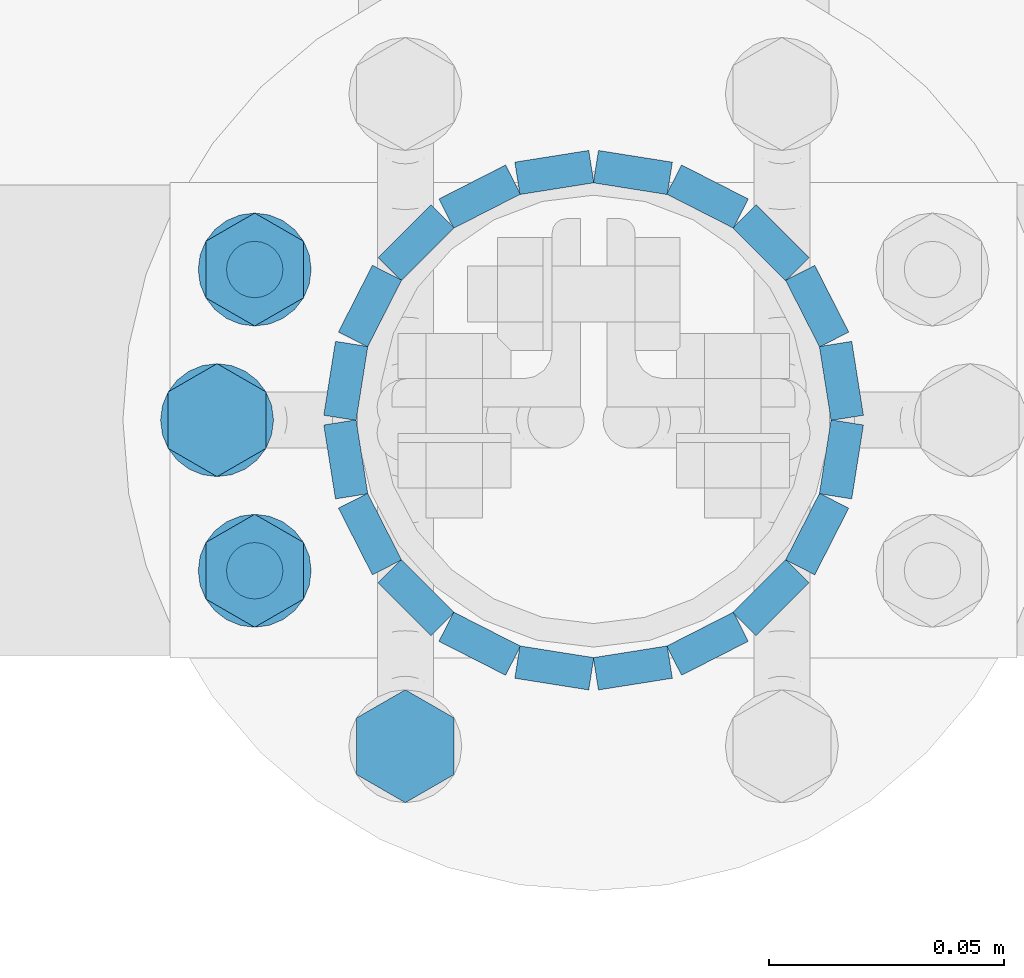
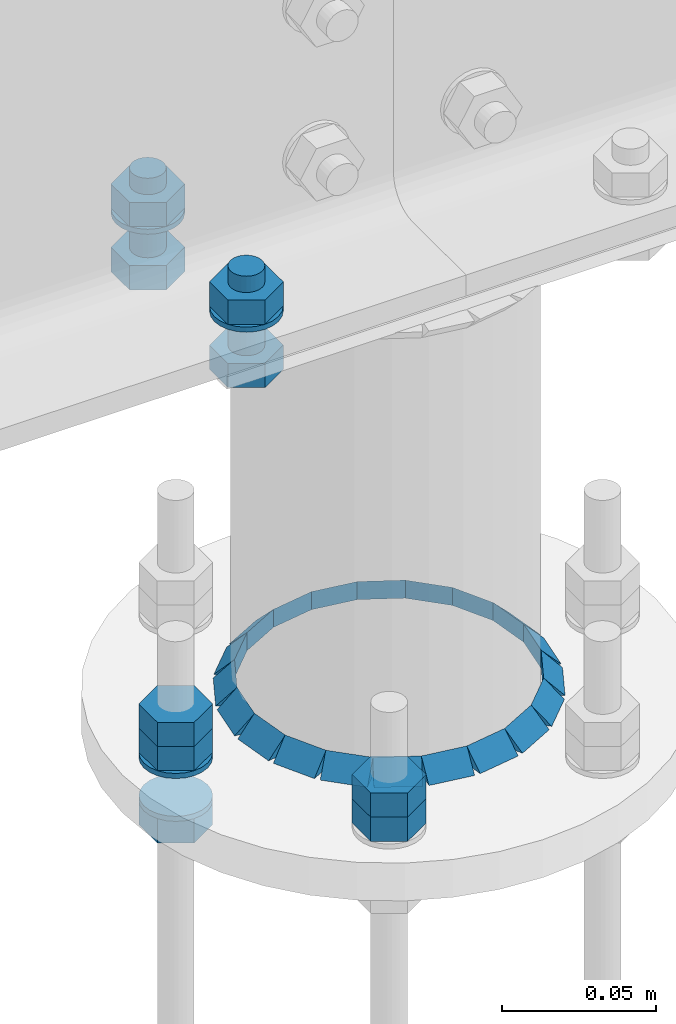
# One storey, part 44 of 84: 40 fasteners, 15 mechanical fasteners.
"""IFC4 building model written with IfcOpenShell, lengths in metres."""

from ifc_helpers import new_model, si_unit, frame, origin_with_axes, place, context, project, spatial, polyline, outline, extrude, type_object, element, save


model = new_model("IFC4")

# Units and contexts
model_context = context("Model", 3, precision=1e-05, world=origin_with_axes())
ifc_project = project(units=[si_unit("LENGTHUNIT", "METRE"), si_unit("AREAUNIT", "SQUARE_METRE"), si_unit("VOLUMEUNIT", "CUBIC_METRE"), si_unit("MASSUNIT", "GRAM", prefix="KILO"), si_unit("TIMEUNIT", "SECOND"), si_unit("PLANEANGLEUNIT", "RADIAN"), si_unit("SOLIDANGLEUNIT", "STERADIAN"), si_unit("THERMODYNAMICTEMPERATUREUNIT", "DEGREE_CELSIUS")], contexts=[model_context])

# Site, building, storey
placement_1 = place(None, origin_with_axes())
site = spatial("IfcSite", under=ifc_project, at=placement_1, Name="Italia", CompositionType="ELEMENT")
building = spatial("IfcBuilding", under=site, at=placement_1, Name="Tettoia", CompositionType="ELEMENT")
storey_placement = place(None, frame((0.0, 0.0, 4.199999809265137), z_axis=(0.0, 0.0, 1.0), x_axis=(1.0, 0.0, 0.0)))
storey = spatial("IfcBuildingStorey", under=building, at=storey_placement, Name="Storey 1", CompositionType="ELEMENT", Elevation=4.199999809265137)

# Fasteners
fastener_type_1 = type_object("IfcFastenerType", Name="Collegamento -008_0108", PredefinedType="WELD")
placement_2 = place(placement_1, origin_with_axes())
fastener_1_placement = place(placement_2, origin_with_axes())
element("IfcFastener", 1, at=fastener_1_placement, inside=storey, type_object=fastener_type_1, Name="Collegamento -008_0108", context=model_context, shape_type="SweptSolid", body=[
    extrude(outline(polyline([(0.0, 0.0), (0.00695896, 0.00717354), (0.00695896, 0.0), (0.0, 0.0)])), frame((4.08674, 10.0248, 4.01495), z_axis=(-0.987680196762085, 0.1564861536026, 0.0), x_axis=(-0.156486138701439, -0.98768013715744, 0.0)), (0.0, 0.0, 1.0), 0.0159),
])
fastener_type_2 = type_object("IfcFastenerType", Name="Collegamento -008_0108", PredefinedType="WELD")
fastener_2_placement = place(placement_2, origin_with_axes())
element("IfcFastener", 2, at=fastener_2_placement, inside=storey, type_object=fastener_type_2, Name="Collegamento -008_0108", context=model_context, shape_type="SweptSolid", body=[
    extrude(outline(polyline([(0.0, 0.0), (0.00695896, 0.00717354), (0.00695896, 0.0), (0.0, 0.0)])), frame((4.10286, 10.017, 4.01495), z_axis=(-0.891006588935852, 0.453990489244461, 0.0), x_axis=(-0.453990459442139, -0.891006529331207, 0.0)), (0.0, 0.0, 1.0), 0.0158998),
])
fastener_type_3 = type_object("IfcFastenerType", Name="Collegamento -008_0108", PredefinedType="WELD")
fastener_3_placement = place(placement_2, origin_with_axes())
element("IfcFastener", 3, at=fastener_3_placement, inside=storey, type_object=fastener_type_3, Name="Collegamento -008_0108", context=model_context, shape_type="SweptSolid", body=[
    extrude(outline(polyline([(0.0, 0.0), (0.00695801, 0.00717354), (0.00695801, 0.0), (0.0, 0.0)])), frame((4.11578, 10.0045, 4.01495), z_axis=(-0.70710676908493, 0.70710676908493, 0.0), x_axis=(-0.70710676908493, -0.70710676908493, 0.0)), (0.0, 0.0, 1.0), 0.0158998),
])
fastener_type_4 = type_object("IfcFastenerType", Name="Collegamento -008_0108", PredefinedType="WELD")
fastener_4_placement = place(placement_2, origin_with_axes())
element("IfcFastener", 4, at=fastener_4_placement, inside=storey, type_object=fastener_type_4, Name="Collegamento -008_0108", context=model_context, shape_type="SweptSolid", body=[
    extrude(outline(polyline([(0.0, 0.0), (0.00695896, 0.00717354), (0.00695896, 0.0), (0.0, 0.0)])), frame((4.12421, 9.9887, 4.01495), z_axis=(-0.453990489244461, 0.891006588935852, 0.0), x_axis=(-0.891006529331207, -0.453990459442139, 0.0)), (0.0, 0.0, 1.0), 0.0158998),
])
fastener_type_5 = type_object("IfcFastenerType", Name="Collegamento -008_0108", PredefinedType="WELD")
fastener_5_placement = place(placement_2, origin_with_axes())
element("IfcFastener", 5, at=fastener_5_placement, inside=storey, type_object=fastener_type_5, Name="Collegamento -008_0108", context=model_context, shape_type="SweptSolid", body=[
    extrude(outline(polyline([(0.0, 0.0), (0.00695753, 0.00717354), (0.00695753, 0.0), (0.0, 0.0)])), frame((4.12733, 9.97103, 4.01495), z_axis=(-0.156398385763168, 0.987694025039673, 0.0), x_axis=(-0.987694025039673, -0.156398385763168, 0.0)), (0.0, 0.0, 1.0), 0.0158998),
])
fastener_type_6 = type_object("IfcFastenerType", Name="Collegamento -008_0108", PredefinedType="WELD")
fastener_6_placement = place(placement_2, origin_with_axes())
element("IfcFastener", 6, at=fastener_6_placement, inside=storey, type_object=fastener_type_6, Name="Collegamento -008_0108", context=model_context, shape_type="SweptSolid", body=[
    extrude(outline(polyline([(0.0, 0.0), (0.00695848, 0.00717354), (0.00695848, 0.0), (0.0, 0.0)])), frame((4.12484, 9.95327, 4.01495), z_axis=(0.156398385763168, 0.987694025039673, 0.0), x_axis=(-0.987694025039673, 0.156398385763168, 0.0)), (0.0, 0.0, 1.0), 0.0158998),
])
fastener_type_7 = type_object("IfcFastenerType", Name="Collegamento -008_0108", PredefinedType="WELD")
fastener_7_placement = place(placement_2, origin_with_axes())
element("IfcFastener", 7, at=fastener_7_placement, inside=storey, type_object=fastener_type_7, Name="Collegamento -008_0108", context=model_context, shape_type="SweptSolid", body=[
    extrude(outline(polyline([(0.0, 0.0), (0.00695801, 0.00717354), (0.00695801, 0.0), (0.0, 0.0)])), frame((4.11699, 9.93714, 4.01495), z_axis=(0.453990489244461, 0.891006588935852, 0.0), x_axis=(-0.891006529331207, 0.453990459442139, 0.0)), (0.0, 0.0, 1.0), 0.0158998),
])
fastener_type_8 = type_object("IfcFastenerType", Name="Collegamento -008_0108", PredefinedType="WELD")
fastener_8_placement = place(placement_2, origin_with_axes())
element("IfcFastener", 8, at=fastener_8_placement, inside=storey, type_object=fastener_type_8, Name="Collegamento -008_0108", context=model_context, shape_type="SweptSolid", body=[
    extrude(outline(polyline([(0.0, 0.0), (0.00695801, 0.00717354), (0.00695801, 0.0), (0.0, 0.0)])), frame((4.10453, 9.92422, 4.01495), z_axis=(0.70710676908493, 0.70710676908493, 0.0), x_axis=(-0.70710676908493, 0.70710676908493, 0.0)), (0.0, 0.0, 1.0), 0.0158998),
])
fastener_type_9 = type_object("IfcFastenerType", Name="Collegamento -008_0108", PredefinedType="WELD")
fastener_9_placement = place(placement_2, origin_with_axes())
element("IfcFastener", 9, at=fastener_9_placement, inside=storey, type_object=fastener_type_9, Name="Collegamento -008_0108", context=model_context, shape_type="SweptSolid", body=[
    extrude(outline(polyline([(0.0, 0.0), (0.00695801, 0.00717354), (0.00695801, 0.0), (0.0, 0.0)])), frame((4.0887, 9.91579, 4.01495), z_axis=(0.891006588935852, 0.453990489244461, 0.0), x_axis=(-0.453990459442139, 0.891006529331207, 0.0)), (0.0, 0.0, 1.0), 0.0158998),
])
fastener_type_10 = type_object("IfcFastenerType", Name="Collegamento -008_0108", PredefinedType="WELD")
fastener_10_placement = place(placement_2, origin_with_axes())
element("IfcFastener", 10, at=fastener_10_placement, inside=storey, type_object=fastener_type_10, Name="Collegamento -008_0108", context=model_context, shape_type="SweptSolid", body=[
    extrude(outline(polyline([(0.0, 0.0), (0.00695896, 0.00717354), (0.00695896, 0.0), (0.0, 0.0)])), frame((4.07103, 9.91267, 4.01495), z_axis=(0.987680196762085, 0.1564861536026, 0.0), x_axis=(-0.156486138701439, 0.98768013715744, 0.0)), (0.0, 0.0, 1.0), 0.0159),
])
fastener_type_11 = type_object("IfcFastenerType", Name="Collegamento -008_0108", PredefinedType="WELD")
fastener_11_placement = place(placement_2, origin_with_axes())
element("IfcFastener", 11, at=fastener_11_placement, inside=storey, type_object=fastener_type_11, Name="Collegamento -008_0108", context=model_context, shape_type="SweptSolid", body=[
    extrude(outline(polyline([(0.0, 0.0), (0.00695705, 0.00717354), (0.00695705, 0.0), (0.0, 0.0)])), frame((4.05326, 9.91516, 4.01495), z_axis=(0.987680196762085, -0.1564861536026, 0.0), x_axis=(0.156486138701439, 0.98768013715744, 0.0)), (0.0, 0.0, 1.0), 0.0159),
])
fastener_type_12 = type_object("IfcFastenerType", Name="Collegamento -008_0108", PredefinedType="WELD")
fastener_12_placement = place(placement_2, origin_with_axes())
element("IfcFastener", 12, at=fastener_12_placement, inside=storey, type_object=fastener_type_12, Name="Collegamento -008_0108", context=model_context, shape_type="SweptSolid", body=[
    extrude(outline(polyline([(0.0, 0.0), (0.00695705, 0.00717354), (0.00695705, 0.0), (0.0, 0.0)])), frame((4.03714, 9.92301, 4.01495), z_axis=(0.891006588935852, -0.453990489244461, 0.0), x_axis=(0.453990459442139, 0.891006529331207, 0.0)), (0.0, 0.0, 1.0), 0.0158998),
])
fastener_type_13 = type_object("IfcFastenerType", Name="Collegamento -008_0108", PredefinedType="WELD")
fastener_13_placement = place(placement_2, origin_with_axes())
element("IfcFastener", 13, at=fastener_13_placement, inside=storey, type_object=fastener_type_13, Name="Collegamento -008_0108", context=model_context, shape_type="SweptSolid", body=[
    extrude(outline(polyline([(0.0, 0.0), (0.00695801, 0.00717354), (0.00695801, 0.0), (0.0, 0.0)])), frame((4.02422, 9.93547, 4.01495), z_axis=(0.70710676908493, -0.70710676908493, 0.0), x_axis=(0.70710676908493, 0.70710676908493, 0.0)), (0.0, 0.0, 1.0), 0.0158998),
])
fastener_type_14 = type_object("IfcFastenerType", Name="Collegamento -008_0108", PredefinedType="WELD")
fastener_14_placement = place(placement_2, origin_with_axes())
element("IfcFastener", 14, at=fastener_14_placement, inside=storey, type_object=fastener_type_14, Name="Collegamento -008_0108", context=model_context, shape_type="SweptSolid", body=[
    extrude(outline(polyline([(0.0, 0.0), (0.00695801, 0.00717354), (0.00695801, 0.0), (0.0, 0.0)])), frame((4.01579, 9.9513, 4.01495), z_axis=(0.453990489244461, -0.891006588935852, 0.0), x_axis=(0.891006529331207, 0.453990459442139, 0.0)), (0.0, 0.0, 1.0), 0.0158998),
])
fastener_type_15 = type_object("IfcFastenerType", Name="Collegamento -008_0108", PredefinedType="WELD")
fastener_15_placement = place(placement_2, origin_with_axes())
element("IfcFastener", 15, at=fastener_15_placement, inside=storey, type_object=fastener_type_15, Name="Collegamento -008_0108", context=model_context, shape_type="SweptSolid", body=[
    extrude(outline(polyline([(0.0, 0.0), (0.00695753, 0.00717354), (0.00695753, 0.0), (0.0, 0.0)])), frame((4.01267, 9.96897, 4.01495), z_axis=(0.156398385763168, -0.987694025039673, 0.0), x_axis=(0.987694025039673, 0.156398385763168, 0.0)), (0.0, 0.0, 1.0), 0.0158998),
])
fastener_type_16 = type_object("IfcFastenerType", Name="Collegamento -008_0108", PredefinedType="WELD")
fastener_16_placement = place(placement_2, origin_with_axes())
element("IfcFastener", 16, at=fastener_16_placement, inside=storey, type_object=fastener_type_16, Name="Collegamento -008_0108", context=model_context, shape_type="SweptSolid", body=[
    extrude(outline(polyline([(0.0, 0.0), (0.00695825, 0.00717354), (0.00695825, 0.0), (0.0, 0.0)])), frame((4.01516, 9.98674, 4.01495), z_axis=(-0.156398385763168, -0.987694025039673, 0.0), x_axis=(0.987694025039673, -0.156398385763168, 0.0)), (0.0, 0.0, 1.0), 0.0158998),
])
fastener_type_17 = type_object("IfcFastenerType", Name="Collegamento -008_0108", PredefinedType="WELD")
fastener_17_placement = place(placement_2, origin_with_axes())
element("IfcFastener", 17, at=fastener_17_placement, inside=storey, type_object=fastener_type_17, Name="Collegamento -008_0108", context=model_context, shape_type="SweptSolid", body=[
    extrude(outline(polyline([(0.0, 0.0), (0.00695801, 0.00717354), (0.00695801, 0.0), (0.0, 0.0)])), frame((4.02301, 10.0029, 4.01495), z_axis=(-0.453990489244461, -0.891006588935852, 0.0), x_axis=(0.891006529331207, -0.453990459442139, 0.0)), (0.0, 0.0, 1.0), 0.0158998),
])
fastener_type_18 = type_object("IfcFastenerType", Name="Collegamento -008_0108", PredefinedType="WELD")
fastener_18_placement = place(placement_2, origin_with_axes())
element("IfcFastener", 18, at=fastener_18_placement, inside=storey, type_object=fastener_type_18, Name="Collegamento -008_0108", context=model_context, shape_type="SweptSolid", body=[
    extrude(outline(polyline([(0.0, 0.0), (0.00695801, 0.00717354), (0.00695801, 0.0), (0.0, 0.0)])), frame((4.03547, 10.0158, 4.01495), z_axis=(-0.70710676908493, -0.70710676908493, 0.0), x_axis=(0.70710676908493, -0.70710676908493, 0.0)), (0.0, 0.0, 1.0), 0.0158998),
])
fastener_type_19 = type_object("IfcFastenerType", Name="Collegamento -008_0108", PredefinedType="WELD")
fastener_19_placement = place(placement_2, origin_with_axes())
element("IfcFastener", 19, at=fastener_19_placement, inside=storey, type_object=fastener_type_19, Name="Collegamento -008_0108", context=model_context, shape_type="SweptSolid", body=[
    extrude(outline(polyline([(0.0, 0.0), (0.00695848, 0.00717354), (0.00695848, 0.0), (0.0, 0.0)])), frame((4.0513, 10.0242, 4.01495), z_axis=(-0.891006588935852, -0.453990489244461, 0.0), x_axis=(0.453990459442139, -0.891006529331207, 0.0)), (0.0, 0.0, 1.0), 0.0158998),
])
fastener_type_20 = type_object("IfcFastenerType", Name="Collegamento -008_0108", PredefinedType="WELD")
fastener_20_placement = place(placement_2, origin_with_axes())
element("IfcFastener", 20, at=fastener_20_placement, inside=storey, type_object=fastener_type_20, Name="Collegamento -008_0108", context=model_context, shape_type="SweptSolid", body=[
    extrude(outline(polyline([(0.0, 0.0), (0.00695896, 0.00717354), (0.00695896, 0.0), (0.0, 0.0)])), frame((4.06897, 10.0273, 4.01495), z_axis=(-0.987680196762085, -0.1564861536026, 0.0), x_axis=(0.156486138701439, -0.98768013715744, 0.0)), (0.0, 0.0, 1.0), 0.0159),
])
fastener_type_21 = type_object("IfcFastenerType", Name="Collegamento -008_0108", PredefinedType="WELD")
fastener_21_placement = place(placement_2, origin_with_axes())
element("IfcFastener", 21, at=fastener_21_placement, inside=storey, type_object=fastener_type_21, Name="Collegamento -008_0108", context=model_context, shape_type="SweptSolid", body=[
    extrude(outline(polyline([(0.0, 0.0), (0.00695896, 0.00717354), (0.00695896, 0.0), (0.0, 0.0)])), frame((4.08674, 10.0248, 4.01495), z_axis=(-0.987680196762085, 0.1564861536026, 0.0), x_axis=(-0.156486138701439, -0.98768013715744, 0.0)), (0.0, 0.0, 1.0), 0.0159),
])
fastener_type_22 = type_object("IfcFastenerType", Name="Collegamento -008_0108", PredefinedType="WELD")
fastener_22_placement = place(placement_2, origin_with_axes())
element("IfcFastener", 22, at=fastener_22_placement, inside=storey, type_object=fastener_type_22, Name="Collegamento -008_0108", context=model_context, shape_type="SweptSolid", body=[
    extrude(outline(polyline([(0.0, 0.0), (0.00695896, 0.00717354), (0.00695896, 0.0), (0.0, 0.0)])), frame((4.10286, 10.017, 4.01495), z_axis=(-0.891006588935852, 0.453990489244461, 0.0), x_axis=(-0.453990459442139, -0.891006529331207, 0.0)), (0.0, 0.0, 1.0), 0.0158998),
])
fastener_type_23 = type_object("IfcFastenerType", Name="Collegamento -008_0108", PredefinedType="WELD")
fastener_23_placement = place(placement_2, origin_with_axes())
element("IfcFastener", 23, at=fastener_23_placement, inside=storey, type_object=fastener_type_23, Name="Collegamento -008_0108", context=model_context, shape_type="SweptSolid", body=[
    extrude(outline(polyline([(0.0, 0.0), (0.00695801, 0.00717354), (0.00695801, 0.0), (0.0, 0.0)])), frame((4.11578, 10.0045, 4.01495), z_axis=(-0.70710676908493, 0.70710676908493, 0.0), x_axis=(-0.70710676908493, -0.70710676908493, 0.0)), (0.0, 0.0, 1.0), 0.0158998),
])
fastener_type_24 = type_object("IfcFastenerType", Name="Collegamento -008_0108", PredefinedType="WELD")
fastener_24_placement = place(placement_2, origin_with_axes())
element("IfcFastener", 24, at=fastener_24_placement, inside=storey, type_object=fastener_type_24, Name="Collegamento -008_0108", context=model_context, shape_type="SweptSolid", body=[
    extrude(outline(polyline([(0.0, 0.0), (0.00695896, 0.00717354), (0.00695896, 0.0), (0.0, 0.0)])), frame((4.12421, 9.9887, 4.01495), z_axis=(-0.453990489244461, 0.891006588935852, 0.0), x_axis=(-0.891006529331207, -0.453990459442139, 0.0)), (0.0, 0.0, 1.0), 0.0158998),
])
fastener_type_25 = type_object("IfcFastenerType", Name="Collegamento -008_0108", PredefinedType="WELD")
fastener_25_placement = place(placement_2, origin_with_axes())
element("IfcFastener", 25, at=fastener_25_placement, inside=storey, type_object=fastener_type_25, Name="Collegamento -008_0108", context=model_context, shape_type="SweptSolid", body=[
    extrude(outline(polyline([(0.0, 0.0), (0.00695753, 0.00717354), (0.00695753, 0.0), (0.0, 0.0)])), frame((4.12733, 9.97103, 4.01495), z_axis=(-0.156398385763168, 0.987694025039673, 0.0), x_axis=(-0.987694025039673, -0.156398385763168, 0.0)), (0.0, 0.0, 1.0), 0.0158998),
])
fastener_type_26 = type_object("IfcFastenerType", Name="Collegamento -008_0108", PredefinedType="WELD")
fastener_26_placement = place(placement_2, origin_with_axes())
element("IfcFastener", 26, at=fastener_26_placement, inside=storey, type_object=fastener_type_26, Name="Collegamento -008_0108", context=model_context, shape_type="SweptSolid", body=[
    extrude(outline(polyline([(0.0, 0.0), (0.00695848, 0.00717354), (0.00695848, 0.0), (0.0, 0.0)])), frame((4.12484, 9.95327, 4.01495), z_axis=(0.156398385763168, 0.987694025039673, 0.0), x_axis=(-0.987694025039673, 0.156398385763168, 0.0)), (0.0, 0.0, 1.0), 0.0158998),
])
fastener_type_27 = type_object("IfcFastenerType", Name="Collegamento -008_0108", PredefinedType="WELD")
fastener_27_placement = place(placement_2, origin_with_axes())
element("IfcFastener", 27, at=fastener_27_placement, inside=storey, type_object=fastener_type_27, Name="Collegamento -008_0108", context=model_context, shape_type="SweptSolid", body=[
    extrude(outline(polyline([(0.0, 0.0), (0.00695801, 0.00717354), (0.00695801, 0.0), (0.0, 0.0)])), frame((4.11699, 9.93714, 4.01495), z_axis=(0.453990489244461, 0.891006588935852, 0.0), x_axis=(-0.891006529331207, 0.453990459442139, 0.0)), (0.0, 0.0, 1.0), 0.0158998),
])
fastener_type_28 = type_object("IfcFastenerType", Name="Collegamento -008_0108", PredefinedType="WELD")
fastener_28_placement = place(placement_2, origin_with_axes())
element("IfcFastener", 28, at=fastener_28_placement, inside=storey, type_object=fastener_type_28, Name="Collegamento -008_0108", context=model_context, shape_type="SweptSolid", body=[
    extrude(outline(polyline([(0.0, 0.0), (0.00695801, 0.00717354), (0.00695801, 0.0), (0.0, 0.0)])), frame((4.10453, 9.92422, 4.01495), z_axis=(0.70710676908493, 0.70710676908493, 0.0), x_axis=(-0.70710676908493, 0.70710676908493, 0.0)), (0.0, 0.0, 1.0), 0.0158998),
])
fastener_type_29 = type_object("IfcFastenerType", Name="Collegamento -008_0108", PredefinedType="WELD")
fastener_29_placement = place(placement_2, origin_with_axes())
element("IfcFastener", 29, at=fastener_29_placement, inside=storey, type_object=fastener_type_29, Name="Collegamento -008_0108", context=model_context, shape_type="SweptSolid", body=[
    extrude(outline(polyline([(0.0, 0.0), (0.00695801, 0.00717354), (0.00695801, 0.0), (0.0, 0.0)])), frame((4.0887, 9.91579, 4.01495), z_axis=(0.891006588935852, 0.453990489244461, 0.0), x_axis=(-0.453990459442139, 0.891006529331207, 0.0)), (0.0, 0.0, 1.0), 0.0158998),
])
fastener_type_30 = type_object("IfcFastenerType", Name="Collegamento -008_0108", PredefinedType="WELD")
fastener_30_placement = place(placement_2, origin_with_axes())
element("IfcFastener", 30, at=fastener_30_placement, inside=storey, type_object=fastener_type_30, Name="Collegamento -008_0108", context=model_context, shape_type="SweptSolid", body=[
    extrude(outline(polyline([(0.0, 0.0), (0.00695896, 0.00717354), (0.00695896, 0.0), (0.0, 0.0)])), frame((4.07103, 9.91267, 4.01495), z_axis=(0.987680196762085, 0.1564861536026, 0.0), x_axis=(-0.156486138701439, 0.98768013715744, 0.0)), (0.0, 0.0, 1.0), 0.0159),
])
fastener_type_31 = type_object("IfcFastenerType", Name="Collegamento -008_0108", PredefinedType="WELD")
fastener_31_placement = place(placement_2, origin_with_axes())
element("IfcFastener", 31, at=fastener_31_placement, inside=storey, type_object=fastener_type_31, Name="Collegamento -008_0108", context=model_context, shape_type="SweptSolid", body=[
    extrude(outline(polyline([(0.0, 0.0), (0.00695705, 0.00717354), (0.00695705, 0.0), (0.0, 0.0)])), frame((4.05326, 9.91516, 4.01495), z_axis=(0.987680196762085, -0.1564861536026, 0.0), x_axis=(0.156486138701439, 0.98768013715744, 0.0)), (0.0, 0.0, 1.0), 0.0159),
])
fastener_type_32 = type_object("IfcFastenerType", Name="Collegamento -008_0108", PredefinedType="WELD")
fastener_32_placement = place(placement_2, origin_with_axes())
element("IfcFastener", 32, at=fastener_32_placement, inside=storey, type_object=fastener_type_32, Name="Collegamento -008_0108", context=model_context, shape_type="SweptSolid", body=[
    extrude(outline(polyline([(0.0, 0.0), (0.00695705, 0.00717354), (0.00695705, 0.0), (0.0, 0.0)])), frame((4.03714, 9.92301, 4.01495), z_axis=(0.891006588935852, -0.453990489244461, 0.0), x_axis=(0.453990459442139, 0.891006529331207, 0.0)), (0.0, 0.0, 1.0), 0.0158998),
])
fastener_type_33 = type_object("IfcFastenerType", Name="Collegamento -008_0108", PredefinedType="WELD")
fastener_33_placement = place(placement_2, origin_with_axes())
element("IfcFastener", 33, at=fastener_33_placement, inside=storey, type_object=fastener_type_33, Name="Collegamento -008_0108", context=model_context, shape_type="SweptSolid", body=[
    extrude(outline(polyline([(0.0, 0.0), (0.00695801, 0.00717354), (0.00695801, 0.0), (0.0, 0.0)])), frame((4.02422, 9.93547, 4.01495), z_axis=(0.70710676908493, -0.70710676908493, 0.0), x_axis=(0.70710676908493, 0.70710676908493, 0.0)), (0.0, 0.0, 1.0), 0.0158998),
])
fastener_type_34 = type_object("IfcFastenerType", Name="Collegamento -008_0108", PredefinedType="WELD")
fastener_34_placement = place(placement_2, origin_with_axes())
element("IfcFastener", 34, at=fastener_34_placement, inside=storey, type_object=fastener_type_34, Name="Collegamento -008_0108", context=model_context, shape_type="SweptSolid", body=[
    extrude(outline(polyline([(0.0, 0.0), (0.00695801, 0.00717354), (0.00695801, 0.0), (0.0, 0.0)])), frame((4.01579, 9.9513, 4.01495), z_axis=(0.453990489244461, -0.891006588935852, 0.0), x_axis=(0.891006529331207, 0.453990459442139, 0.0)), (0.0, 0.0, 1.0), 0.0158998),
])
fastener_type_35 = type_object("IfcFastenerType", Name="Collegamento -008_0108", PredefinedType="WELD")
fastener_35_placement = place(placement_2, origin_with_axes())
element("IfcFastener", 35, at=fastener_35_placement, inside=storey, type_object=fastener_type_35, Name="Collegamento -008_0108", context=model_context, shape_type="SweptSolid", body=[
    extrude(outline(polyline([(0.0, 0.0), (0.00695753, 0.00717354), (0.00695753, 0.0), (0.0, 0.0)])), frame((4.01267, 9.96897, 4.01495), z_axis=(0.156398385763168, -0.987694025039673, 0.0), x_axis=(0.987694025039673, 0.156398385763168, 0.0)), (0.0, 0.0, 1.0), 0.0158998),
])
fastener_type_36 = type_object("IfcFastenerType", Name="Collegamento -008_0108", PredefinedType="WELD")
fastener_36_placement = place(placement_2, origin_with_axes())
element("IfcFastener", 36, at=fastener_36_placement, inside=storey, type_object=fastener_type_36, Name="Collegamento -008_0108", context=model_context, shape_type="SweptSolid", body=[
    extrude(outline(polyline([(0.0, 0.0), (0.00695825, 0.00717354), (0.00695825, 0.0), (0.0, 0.0)])), frame((4.01516, 9.98674, 4.01495), z_axis=(-0.156398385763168, -0.987694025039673, 0.0), x_axis=(0.987694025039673, -0.156398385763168, 0.0)), (0.0, 0.0, 1.0), 0.0158998),
])
fastener_type_37 = type_object("IfcFastenerType", Name="Collegamento -008_0108", PredefinedType="WELD")
fastener_37_placement = place(placement_2, origin_with_axes())
element("IfcFastener", 37, at=fastener_37_placement, inside=storey, type_object=fastener_type_37, Name="Collegamento -008_0108", context=model_context, shape_type="SweptSolid", body=[
    extrude(outline(polyline([(0.0, 0.0), (0.00695801, 0.00717354), (0.00695801, 0.0), (0.0, 0.0)])), frame((4.02301, 10.0029, 4.01495), z_axis=(-0.453990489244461, -0.891006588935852, 0.0), x_axis=(0.891006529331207, -0.453990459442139, 0.0)), (0.0, 0.0, 1.0), 0.0158998),
])
fastener_type_38 = type_object("IfcFastenerType", Name="Collegamento -008_0108", PredefinedType="WELD")
fastener_38_placement = place(placement_2, origin_with_axes())
element("IfcFastener", 38, at=fastener_38_placement, inside=storey, type_object=fastener_type_38, Name="Collegamento -008_0108", context=model_context, shape_type="SweptSolid", body=[
    extrude(outline(polyline([(0.0, 0.0), (0.00695801, 0.00717354), (0.00695801, 0.0), (0.0, 0.0)])), frame((4.03547, 10.0158, 4.01495), z_axis=(-0.70710676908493, -0.70710676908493, 0.0), x_axis=(0.70710676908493, -0.70710676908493, 0.0)), (0.0, 0.0, 1.0), 0.0158998),
])
fastener_type_39 = type_object("IfcFastenerType", Name="Collegamento -008_0108", PredefinedType="WELD")
fastener_39_placement = place(placement_2, origin_with_axes())
element("IfcFastener", 39, at=fastener_39_placement, inside=storey, type_object=fastener_type_39, Name="Collegamento -008_0108", context=model_context, shape_type="SweptSolid", body=[
    extrude(outline(polyline([(0.0, 0.0), (0.00695848, 0.00717354), (0.00695848, 0.0), (0.0, 0.0)])), frame((4.0513, 10.0242, 4.01495), z_axis=(-0.891006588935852, -0.453990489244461, 0.0), x_axis=(0.453990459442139, -0.891006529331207, 0.0)), (0.0, 0.0, 1.0), 0.0158998),
])
fastener_type_40 = type_object("IfcFastenerType", Name="Collegamento -008_0108", PredefinedType="WELD")
fastener_40_placement = place(placement_2, origin_with_axes())
element("IfcFastener", 40, at=fastener_40_placement, inside=storey, type_object=fastener_type_40, Name="Collegamento -008_0108", context=model_context, shape_type="SweptSolid", body=[
    extrude(outline(polyline([(0.0, 0.0), (0.00695896, 0.00717354), (0.00695896, 0.0), (0.0, 0.0)])), frame((4.06897, 10.0273, 4.01495), z_axis=(-0.987680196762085, -0.1564861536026, 0.0), x_axis=(0.156486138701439, -0.98768013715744, 0.0)), (0.0, 0.0, 1.0), 0.0159),
])

# Mechanical fasteners
mechanical_fastener_type_1 = type_object("IfcMechanicalFastenerType", Name="Collegamento -008_0108", PredefinedType="BOLT")
mechanical_fastener_1_placement = place(placement_2, origin_with_axes())
element("IfcMechanicalFastener", 41, at=mechanical_fastener_1_placement, inside=storey, type_object=mechanical_fastener_type_1, Name="Collegamento -008_0108", NominalDiameter=0.0119991, context=model_context, shape_type="SweptSolid", body=[
    extrude(outline(polyline([(0.0, 0.0), (-0.0119991, 0.0), (-0.0179996, 0.0103922), (-0.0119991, 0.0207846), (0.0, 0.0207846), (0.00600052, 0.0103922), (0.0, 0.0)])), frame((4.00039, 9.976, 4.017), z_axis=(0.0, 0.0, 1.0), x_axis=(0.0, 1.0, 0.0)), (0.0, 0.0, 1.0), 0.00959969),
])
mechanical_fastener_type_2 = type_object("IfcMechanicalFastenerType", Name="Collegamento -008_0108", PredefinedType="BOLT")
mechanical_fastener_2_placement = place(placement_2, origin_with_axes())
element("IfcMechanicalFastener", 42, at=mechanical_fastener_2_placement, inside=storey, type_object=mechanical_fastener_type_2, Name="Collegamento -008_0108", NominalDiameter=0.0119991, context=model_context, shape_type="SweptSolid", body=[
    extrude(outline(polyline([(0.0, 0.0), (-0.0119991, 0.0), (-0.0179996, 0.0103922), (-0.0119991, 0.0207846), (0.0, 0.0207846), (0.00600052, 0.0103922), (0.0, 0.0)])), frame((4.00039, 9.976, 4.0266), z_axis=(0.0, 0.0, 1.0), x_axis=(0.0, 1.0, 0.0)), (0.0, 0.0, 1.0), 0.00960016),
])
mechanical_fastener_type_3 = type_object("IfcMechanicalFastenerType", Name="Collegamento -008_0108", PredefinedType="BOLT")
mechanical_fastener_3_placement = place(placement_2, origin_with_axes())
element("IfcMechanicalFastener", 43, at=mechanical_fastener_3_placement, inside=storey, type_object=mechanical_fastener_type_3, Name="Collegamento -008_0108", NominalDiameter=0.0119991, context=model_context, shape_type="SweptSolid", body=[
    extrude(outline(polyline([(0.0, 0.0), (-0.0119991, 0.0), (-0.0179996, 0.0103922), (-0.0119991, 0.0207846), (0.0, 0.0207846), (0.00600052, 0.0103922), (0.0, 0.0)])), frame((4.00039, 9.976, 3.9884), z_axis=(0.0, 0.0, 1.0), x_axis=(0.0, 1.0, 0.0)), (0.0, 0.0, 1.0), 0.00959992),
])
mechanical_fastener_type_4 = type_object("IfcMechanicalFastenerType", Name="Collegamento -008_0108", PredefinedType="BOLT")
mechanical_fastener_4_placement = place(placement_2, origin_with_axes())
element("IfcMechanicalFastener", 44, at=mechanical_fastener_4_placement, inside=storey, type_object=mechanical_fastener_type_4, Name="Collegamento -008_0108", NominalDiameter=0.024, context=model_context, shape_type="SweptSolid", body=[
    extrude(outline(polyline([(0.0, 0.0), (-0.000409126, -0.00310588), (-0.00160789, -0.00600004), (-0.00351524, -0.00848532), (-0.00600052, -0.0103922), (-0.00889397, -0.011591), (-0.0120001, -0.0120001), (-0.0151062, -0.011591), (-0.0179996, -0.0103922), (-0.0204849, -0.00848532), (-0.0223923, -0.00600004), (-0.023591, -0.00310588), (-0.0240002, 0.0), (-0.023591, 0.00310588), (-0.0223923, 0.00600004), (-0.0204849, 0.00848532), (-0.0179996, 0.0103922), (-0.0151062, 0.0115912), (-0.0120001, 0.0120001), (-0.00889397, 0.0115912), (-0.00600052, 0.0103922), (-0.00351524, 0.00848532), (-0.00160789, 0.00600004), (-0.000409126, 0.00310588), (0.0, 0.0)])), frame((3.99, 9.982, 4.015), z_axis=(0.0, 0.0, 1.0), x_axis=(0.0, 1.0, 0.0)), (0.0, 0.0, 1.0), 0.00200033),
])
mechanical_fastener_type_5 = type_object("IfcMechanicalFastenerType", Name="Collegamento -008_0108", PredefinedType="BOLT")
mechanical_fastener_5_placement = place(placement_2, origin_with_axes())
element("IfcMechanicalFastener", 45, at=mechanical_fastener_5_placement, inside=storey, type_object=mechanical_fastener_type_5, Name="Collegamento -008_0108", NominalDiameter=0.024, context=model_context, shape_type="SweptSolid", body=[
    extrude(outline(polyline([(0.0, 0.0), (-0.000409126, -0.00310588), (-0.00160789, -0.00600004), (-0.00351524, -0.00848532), (-0.00600052, -0.0103922), (-0.00889397, -0.011591), (-0.0120001, -0.0120001), (-0.0151062, -0.011591), (-0.0179996, -0.0103922), (-0.0204849, -0.00848532), (-0.0223923, -0.00600004), (-0.023591, -0.00310588), (-0.0240002, 0.0), (-0.023591, 0.00310588), (-0.0223923, 0.00600004), (-0.0204849, 0.00848532), (-0.0179996, 0.0103922), (-0.0151062, 0.0115912), (-0.0120001, 0.0120001), (-0.00889397, 0.0115912), (-0.00600052, 0.0103922), (-0.00351524, 0.00848532), (-0.00160789, 0.00600004), (-0.000409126, 0.00310588), (0.0, 0.0)])), frame((3.99, 9.982, 3.998), z_axis=(0.0, 0.0, 1.0), x_axis=(0.0, 1.0, 0.0)), (0.0, 0.0, 1.0), 0.00200009),
])
mechanical_fastener_type_6 = type_object("IfcMechanicalFastenerType", Name="Collegamento -008_0108", PredefinedType="BOLT")
mechanical_fastener_6_placement = place(placement_2, origin_with_axes())
element("IfcMechanicalFastener", 46, at=mechanical_fastener_6_placement, inside=storey, type_object=mechanical_fastener_type_6, Name="Collegamento -008_0108", NominalDiameter=0.0119997, context=model_context, shape_type="SweptSolid", body=[
    extrude(outline(polyline([(0.0, 0.0), (-0.0120001, 0.0), (-0.0179996, 0.0103922), (-0.0120001, 0.0207844), (0.0, 0.0207844), (0.00599957, 0.0103922), (0.0, 0.0)])), frame((4.04039, 9.90672, 4.017), z_axis=(0.0, 0.0, 1.0), x_axis=(0.0, 1.0, 0.0)), (0.0, 0.0, 1.0), 0.00959969),
])
mechanical_fastener_type_7 = type_object("IfcMechanicalFastenerType", Name="Collegamento -008_0108", PredefinedType="BOLT")
mechanical_fastener_7_placement = place(placement_2, origin_with_axes())
element("IfcMechanicalFastener", 47, at=mechanical_fastener_7_placement, inside=storey, type_object=mechanical_fastener_type_7, Name="Collegamento -008_0108", NominalDiameter=0.0119997, context=model_context, shape_type="SweptSolid", body=[
    extrude(outline(polyline([(0.0, 0.0), (-0.0120001, 0.0), (-0.0179996, 0.0103922), (-0.0120001, 0.0207844), (0.0, 0.0207844), (0.00599957, 0.0103922), (0.0, 0.0)])), frame((4.04039, 9.90672, 4.0266), z_axis=(0.0, 0.0, 1.0), x_axis=(0.0, 1.0, 0.0)), (0.0, 0.0, 1.0), 0.00960016),
])
mechanical_fastener_type_8 = type_object("IfcMechanicalFastenerType", Name="Collegamento 0108_-008", PredefinedType="BOLT")
mechanical_fastener_8_placement = place(placement_2, origin_with_axes())
element("IfcMechanicalFastener", 48, at=mechanical_fastener_8_placement, inside=storey, type_object=mechanical_fastener_type_8, Name="Collegamento 0108_-008", NominalDiameter=0.0119997, context=model_context, shape_type="SweptSolid", body=[
    extrude(outline(polyline([(0.0, 0.0), (0.0120001, 0.0), (0.0179996, -0.0103922), (0.0120001, -0.0207844), (0.0, -0.0207844), (-0.00599957, -0.0103922), (0.0, 0.0)])), frame((4.00839, 9.996, 4.195), z_axis=(0.0, 0.0, -1.0), x_axis=(0.0, 1.0, 0.0)), (0.0, 0.0, 1.0), 0.00959969),
])
mechanical_fastener_type_9 = type_object("IfcMechanicalFastenerType", Name="Collegamento 0108_-008", PredefinedType="BOLT")
mechanical_fastener_9_placement = place(placement_2, origin_with_axes())
element("IfcMechanicalFastener", 49, at=mechanical_fastener_9_placement, inside=storey, type_object=mechanical_fastener_type_9, Name="Collegamento 0108_-008", NominalDiameter=0.012, context=model_context, shape_type="SweptSolid", body=[
    extrude(outline(polyline([(0.0, 0.0), (-0.000204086, -0.00155282), (-0.000802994, -0.00300002), (-0.00175667, -0.00424266), (-0.00299931, -0.00519609), (-0.00444698, -0.00579548), (-0.00599957, -0.00600004), (-0.00755215, -0.00579548), (-0.00899982, -0.00519609), (-0.0102425, -0.00424266), (-0.0111961, -0.00300002), (-0.011795, -0.00155282), (-0.0119991, 0.0), (-0.011795, 0.00155282), (-0.0111961, 0.00299978), (-0.0102425, 0.00424242), (-0.00899982, 0.00519609), (-0.00755215, 0.00579548), (-0.00599957, 0.00600004), (-0.00444698, 0.00579548), (-0.00299931, 0.00519609), (-0.00175667, 0.00424242), (-0.000802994, 0.00299978), (-0.000204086, 0.00155282), (0.0, 0.0)])), frame((3.998, 10.008, 4.2265), z_axis=(0.0, 0.0, -1.0), x_axis=(0.0, 1.0, 0.0)), (0.0, 0.0, 1.0), 0.0315003),
])
mechanical_fastener_type_10 = type_object("IfcMechanicalFastenerType", Name="Collegamento 0108_-008", PredefinedType="BOLT")
mechanical_fastener_10_placement = place(placement_2, origin_with_axes())
element("IfcMechanicalFastener", 50, at=mechanical_fastener_10_placement, inside=storey, type_object=mechanical_fastener_type_10, Name="Collegamento 0108_-008", NominalDiameter=0.0119997, context=model_context, shape_type="SweptSolid", body=[
    extrude(outline(polyline([(0.0, 0.0), (0.0120001, 0.0), (0.0179996, -0.0103922), (0.0120001, -0.0207844), (0.0, -0.0207844), (-0.00599957, -0.0103922), (0.0, 0.0)])), frame((4.00839, 9.996, 4.2201), z_axis=(0.0, 0.0, -1.0), x_axis=(0.0, 1.0, 0.0)), (0.0, 0.0, 1.0), 0.00960016),
])
mechanical_fastener_type_11 = type_object("IfcMechanicalFastenerType", Name="Collegamento 0108_-008", PredefinedType="BOLT")
mechanical_fastener_11_placement = place(placement_2, origin_with_axes())
element("IfcMechanicalFastener", 51, at=mechanical_fastener_11_placement, inside=storey, type_object=mechanical_fastener_type_11, Name="Collegamento 0108_-008", NominalDiameter=0.024, context=model_context, shape_type="SweptSolid", body=[
    extrude(outline(polyline([(0.0, 0.0), (-0.000409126, -0.00310588), (-0.00160789, -0.00600004), (-0.00351524, -0.00848532), (-0.00600052, -0.0103922), (-0.00889397, -0.0115912), (-0.0120001, -0.0120001), (-0.0151062, -0.0115912), (-0.0179996, -0.0103922), (-0.0204849, -0.00848532), (-0.0223923, -0.00600004), (-0.023591, -0.00310588), (-0.0240002, 0.0), (-0.023591, 0.00310564), (-0.0223923, 0.00600004), (-0.0204849, 0.00848532), (-0.0179996, 0.0103922), (-0.0151062, 0.011591), (-0.0120001, 0.0120001), (-0.00889397, 0.011591), (-0.00600052, 0.0103922), (-0.00351524, 0.00848532), (-0.00160789, 0.00600004), (-0.000409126, 0.00310564), (0.0, 0.0)])), frame((3.998, 10.014, 4.2105), z_axis=(0.0, 0.0, -1.0), x_axis=(0.0, 1.0, 0.0)), (0.0, 0.0, 1.0), 0.00199986),
])
mechanical_fastener_type_12 = type_object("IfcMechanicalFastenerType", Name="Collegamento 0108_-008", PredefinedType="BOLT")
mechanical_fastener_12_placement = place(placement_2, origin_with_axes())
element("IfcMechanicalFastener", 52, at=mechanical_fastener_12_placement, inside=storey, type_object=mechanical_fastener_type_12, Name="Collegamento 0108_-008", NominalDiameter=0.0119997, context=model_context, shape_type="SweptSolid", body=[
    extrude(outline(polyline([(0.0, 0.0), (0.0120001, 0.0), (0.0179996, -0.0103922), (0.0120001, -0.0207844), (0.0, -0.0207844), (-0.00599957, -0.0103922), (0.0, 0.0)])), frame((4.00839, 9.932, 4.195), z_axis=(0.0, 0.0, -1.0), x_axis=(0.0, 1.0, 0.0)), (0.0, 0.0, 1.0), 0.00959969),
])
mechanical_fastener_type_13 = type_object("IfcMechanicalFastenerType", Name="Collegamento 0108_-008", PredefinedType="BOLT")
mechanical_fastener_13_placement = place(placement_2, origin_with_axes())
element("IfcMechanicalFastener", 53, at=mechanical_fastener_13_placement, inside=storey, type_object=mechanical_fastener_type_13, Name="Collegamento 0108_-008", NominalDiameter=0.012, context=model_context, shape_type="SweptSolid", body=[
    extrude(outline(polyline([(0.0, 0.0), (-0.000204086, -0.00155282), (-0.000802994, -0.00300002), (-0.00175667, -0.00424266), (-0.00299931, -0.00519609), (-0.00444698, -0.00579548), (-0.00599957, -0.00600004), (-0.00755215, -0.00579548), (-0.00899982, -0.00519609), (-0.0102425, -0.00424266), (-0.0111961, -0.00300002), (-0.011795, -0.00155282), (-0.0119991, 0.0), (-0.011795, 0.00155282), (-0.0111961, 0.00299978), (-0.0102425, 0.00424242), (-0.00899982, 0.00519609), (-0.00755215, 0.00579548), (-0.00599957, 0.00600004), (-0.00444698, 0.00579548), (-0.00299931, 0.00519609), (-0.00175667, 0.00424242), (-0.000802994, 0.00299978), (-0.000204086, 0.00155282), (0.0, 0.0)])), frame((3.998, 9.944, 4.2265), z_axis=(0.0, 0.0, -1.0), x_axis=(0.0, 1.0, 0.0)), (0.0, 0.0, 1.0), 0.0315003),
])
mechanical_fastener_type_14 = type_object("IfcMechanicalFastenerType", Name="Collegamento 0108_-008", PredefinedType="BOLT")
mechanical_fastener_14_placement = place(placement_2, origin_with_axes())
element("IfcMechanicalFastener", 54, at=mechanical_fastener_14_placement, inside=storey, type_object=mechanical_fastener_type_14, Name="Collegamento 0108_-008", NominalDiameter=0.0119997, context=model_context, shape_type="SweptSolid", body=[
    extrude(outline(polyline([(0.0, 0.0), (0.0120001, 0.0), (0.0179996, -0.0103922), (0.0120001, -0.0207844), (0.0, -0.0207844), (-0.00599957, -0.0103922), (0.0, 0.0)])), frame((4.00839, 9.932, 4.2201), z_axis=(0.0, 0.0, -1.0), x_axis=(0.0, 1.0, 0.0)), (0.0, 0.0, 1.0), 0.00960016),
])
mechanical_fastener_type_15 = type_object("IfcMechanicalFastenerType", Name="Collegamento 0108_-008", PredefinedType="BOLT")
mechanical_fastener_15_placement = place(placement_2, origin_with_axes())
element("IfcMechanicalFastener", 55, at=mechanical_fastener_15_placement, inside=storey, type_object=mechanical_fastener_type_15, Name="Collegamento 0108_-008", NominalDiameter=0.024, context=model_context, shape_type="SweptSolid", body=[
    extrude(outline(polyline([(0.0, 0.0), (-0.000409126, -0.00310588), (-0.00160789, -0.00600004), (-0.00351524, -0.00848532), (-0.00600052, -0.0103922), (-0.00889397, -0.0115912), (-0.0120001, -0.0120001), (-0.0151062, -0.0115912), (-0.0179996, -0.0103922), (-0.0204849, -0.00848532), (-0.0223923, -0.00600004), (-0.023591, -0.00310588), (-0.0240002, 0.0), (-0.023591, 0.00310564), (-0.0223923, 0.00600004), (-0.0204849, 0.00848532), (-0.0179996, 0.0103922), (-0.0151062, 0.011591), (-0.0120001, 0.0120001), (-0.00889397, 0.011591), (-0.00600052, 0.0103922), (-0.00351524, 0.00848532), (-0.00160789, 0.00600004), (-0.000409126, 0.00310564), (0.0, 0.0)])), frame((3.998, 9.95, 4.2105), z_axis=(0.0, 0.0, -1.0), x_axis=(0.0, 1.0, 0.0)), (0.0, 0.0, 1.0), 0.00199986),
])

save(model, "model.ifc")
